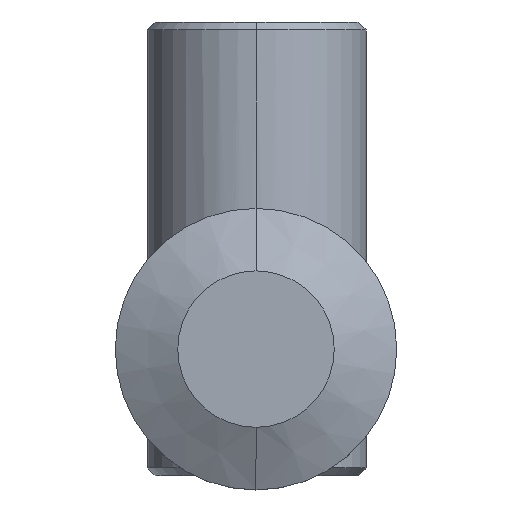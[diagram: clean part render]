
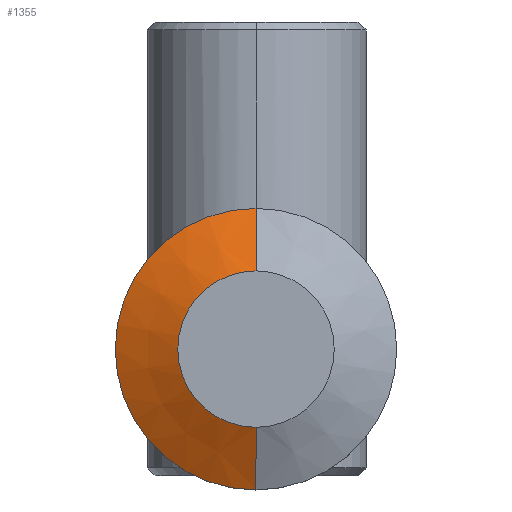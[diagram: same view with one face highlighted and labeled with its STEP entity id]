
A CAD part, top view. The second image highlights one B-rep face of the part: STEP entity #1355.
In plain terms, the highlighted conical face has half-angle 63.435 degrees and reference radius 9 mm.
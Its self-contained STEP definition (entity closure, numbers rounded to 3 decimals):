
#13 = DIRECTION ( 'NONE',  ( 0.894, 0., 0.447 ) ) ;
#85 = EDGE_CURVE ( 'NONE', #1377, #797, #1343, .T. ) ;
#90 = ORIENTED_EDGE ( 'NONE', *, *, #2375, .F. ) ;
#145 = CARTESIAN_POINT ( 'NONE',  ( -11.603, 8.982, 0. ) ) ;
#310 = EDGE_CURVE ( 'NONE', #1027, #797, #1499, .T. ) ;
#427 = DIRECTION ( 'NONE',  ( 0., 0., 1. ) ) ;
#532 = CARTESIAN_POINT ( 'NONE',  ( -15.603, 8.982, 2. ) ) ;
#797 = VERTEX_POINT ( 'NONE', #816 ) ;
#816 = CARTESIAN_POINT ( 'NONE',  ( -15.603, 8.982, 2. ) ) ;
#949 = VERTEX_POINT ( 'NONE', #2386 ) ;
#970 = CARTESIAN_POINT ( 'NONE',  ( -6.603, 8.982, 0. ) ) ;
#989 = AXIS2_PLACEMENT_3D ( 'NONE', #2269, #427, #1765 ) ;
#1027 = VERTEX_POINT ( 'NONE', #145 ) ;
#1057 = CIRCLE ( 'NONE', #2848, 5. ) ;
#1343 = CIRCLE ( 'NONE', #1371, 9. ) ;
#1355 = ADVANCED_FACE ( 'NONE', ( #1738 ), #2477, .T. ) ;
#1371 = AXIS2_PLACEMENT_3D ( 'NONE', #1706, #2380, #2888 ) ;
#1377 = VERTEX_POINT ( 'NONE', #2308 ) ;
#1499 = LINE ( 'NONE', #532, #2780 ) ;
#1502 = DIRECTION ( 'NONE',  ( 1., 0., 0. ) ) ;
#1706 = CARTESIAN_POINT ( 'NONE',  ( -6.603, 8.982, 2. ) ) ;
#1738 = FACE_OUTER_BOUND ( 'NONE', #2481, .T. ) ;
#1765 = DIRECTION ( 'NONE',  ( 1., 0., 0. ) ) ;
#2182 = ORIENTED_EDGE ( 'NONE', *, *, #85, .F. ) ;
#2269 = CARTESIAN_POINT ( 'NONE',  ( -6.603, 8.982, 2. ) ) ;
#2308 = CARTESIAN_POINT ( 'NONE',  ( 2.397, 8.982, 2. ) ) ;
#2335 = CARTESIAN_POINT ( 'NONE',  ( 2.397, 8.982, 2. ) ) ;
#2365 = DIRECTION ( 'NONE',  ( -0.894, 0., 0.447 ) ) ;
#2371 = ORIENTED_EDGE ( 'NONE', *, *, #310, .T. ) ;
#2375 = EDGE_CURVE ( 'NONE', #1027, #949, #1057, .T. ) ;
#2380 = DIRECTION ( 'NONE',  ( 0., 0., 1. ) ) ;
#2386 = CARTESIAN_POINT ( 'NONE',  ( -1.603, 8.982, 0. ) ) ;
#2402 = EDGE_CURVE ( 'NONE', #949, #1377, #2838, .T. ) ;
#2477 = CONICAL_SURFACE ( 'NONE', #989, 9., 1.107 ) ;
#2481 = EDGE_LOOP ( 'NONE', ( #90, #2371, #2182, #2576 ) ) ;
#2576 = ORIENTED_EDGE ( 'NONE', *, *, #2402, .F. ) ;
#2604 = DIRECTION ( 'NONE',  ( 0., 0., -1. ) ) ;
#2780 = VECTOR ( 'NONE', #2365, 1000. ) ;
#2838 = LINE ( 'NONE', #2335, #2943 ) ;
#2848 = AXIS2_PLACEMENT_3D ( 'NONE', #970, #2604, #1502 ) ;
#2888 = DIRECTION ( 'NONE',  ( 1., 0., 0. ) ) ;
#2943 = VECTOR ( 'NONE', #13, 1000. ) ;
